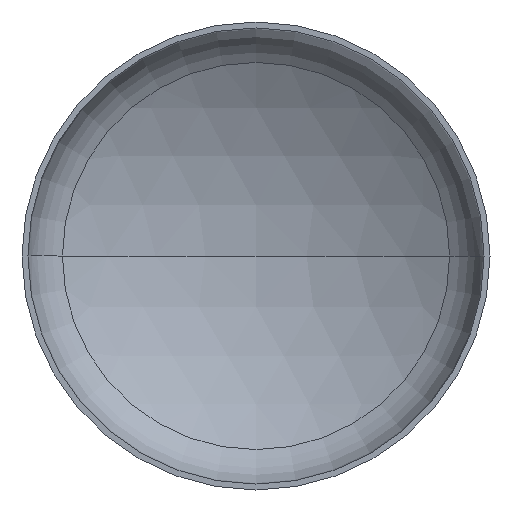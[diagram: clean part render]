
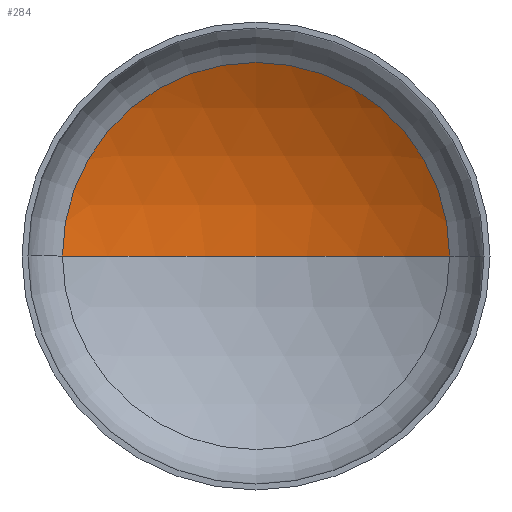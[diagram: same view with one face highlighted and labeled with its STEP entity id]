
A CAD part, front view. The second image highlights one B-rep face of the part: STEP entity #284.
In plain terms, the highlighted spherical face has radius 1520 mm.
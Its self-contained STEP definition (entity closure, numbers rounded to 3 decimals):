
#3 = AXIS2_PLACEMENT_3D ( 'NONE', #249, #400, #276 ) ;
#5 = AXIS2_PLACEMENT_3D ( 'NONE', #297, #126, #323 ) ;
#9 = AXIS2_PLACEMENT_3D ( 'NONE', #384, #247, #398 ) ;
#11 = VERTEX_POINT ( 'NONE', #286 ) ;
#34 = AXIS2_PLACEMENT_3D ( 'NONE', #101, #57, #170 ) ;
#57 = DIRECTION ( 'NONE',  ( 0., 0., -1. ) ) ;
#88 = ORIENTED_EDGE ( 'NONE', *, *, #378, .T. ) ;
#96 = ORIENTED_EDGE ( 'NONE', *, *, #365, .F. ) ;
#98 = VERTEX_POINT ( 'NONE', #159 ) ;
#101 = CARTESIAN_POINT ( 'NONE',  ( 0., -977.808, 0. ) ) ;
#116 = ORIENTED_EDGE ( 'NONE', *, *, #360, .T. ) ;
#126 = DIRECTION ( 'NONE',  ( 0., 0., 1. ) ) ;
#146 = VERTEX_POINT ( 'NONE', #317 ) ;
#147 = EDGE_LOOP ( 'NONE', ( #96, #116, #88 ) ) ;
#159 = CARTESIAN_POINT ( 'NONE',  ( -785.951, 323.223, 0. ) ) ;
#170 = DIRECTION ( 'NONE',  ( -1., 0., 0. ) ) ;
#231 = FACE_OUTER_BOUND ( 'NONE', #147, .T. ) ;
#247 = DIRECTION ( 'NONE',  ( 0., 0., -1. ) ) ;
#249 = CARTESIAN_POINT ( 'NONE',  ( 0., 323.223, 0. ) ) ;
#263 = CIRCLE ( 'NONE', #5, 1520. ) ;
#276 = DIRECTION ( 'NONE',  ( 1., 0., 0. ) ) ;
#284 = ADVANCED_FACE ( 'NONE', ( #231 ), #285, .F. ) ;
#285 = SPHERICAL_SURFACE ( 'NONE', #34, 1520. ) ;
#286 = CARTESIAN_POINT ( 'NONE',  ( 785.951, 323.223, 0. ) ) ;
#297 = CARTESIAN_POINT ( 'NONE',  ( 0., -977.808, 0. ) ) ;
#317 = CARTESIAN_POINT ( 'NONE',  ( 0., 542.192, 0. ) ) ;
#322 = CIRCLE ( 'NONE', #9, 1520. ) ;
#323 = DIRECTION ( 'NONE',  ( 1., 0., 0. ) ) ;
#360 = EDGE_CURVE ( 'NONE', #146, #11, #322, .T. ) ;
#365 = EDGE_CURVE ( 'NONE', #146, #98, #263, .T. ) ;
#371 = CIRCLE ( 'NONE', #3, 785.951 ) ;
#378 = EDGE_CURVE ( 'NONE', #11, #98, #371, .T. ) ;
#384 = CARTESIAN_POINT ( 'NONE',  ( 0., -977.808, 0. ) ) ;
#398 = DIRECTION ( 'NONE',  ( -1., 0., 0. ) ) ;
#400 = DIRECTION ( 'NONE',  ( 0., -1., 0. ) ) ;
